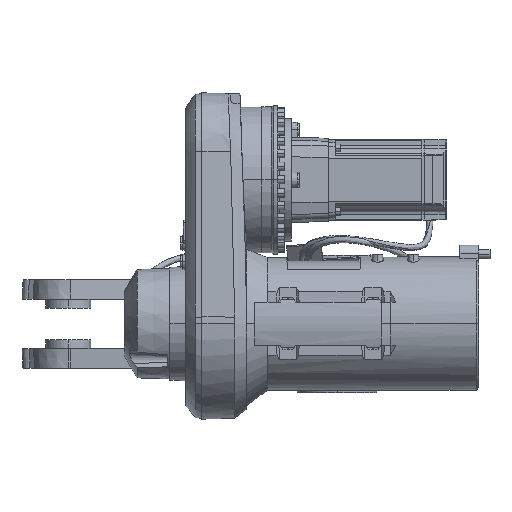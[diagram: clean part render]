
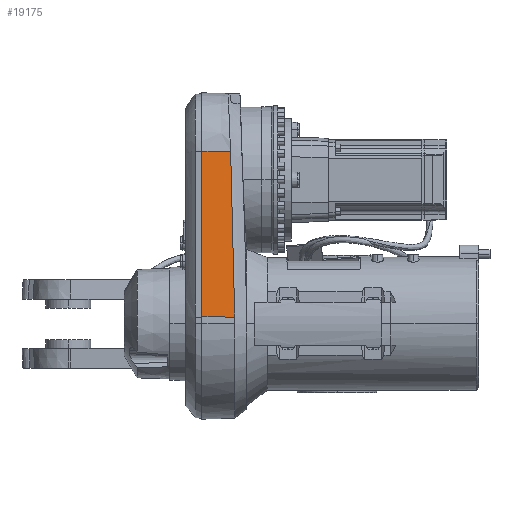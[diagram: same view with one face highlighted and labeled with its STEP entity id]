
A CAD part, top view. The second image highlights one B-rep face of the part: STEP entity #19175.
In plain terms, the highlighted planar face has unit normal (0.026, 0.069, 0.997).
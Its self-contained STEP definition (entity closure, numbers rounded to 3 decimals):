
#37 = CARTESIAN_POINT ( 'NONE',  ( 189.337, 168.722, 3090.001 ) ) ;
#112 = CARTESIAN_POINT ( 'NONE',  ( 183.709, 345.984, 3077.928 ) ) ;
#151 = CARTESIAN_POINT ( 'NONE',  ( 183.284, 357.544, 3077.142 ) ) ;
#215 = CARTESIAN_POINT ( 'NONE',  ( 182.78, 371.029, 3076.225 ) ) ;
#254 = CARTESIAN_POINT ( 'NONE',  ( 182.526, 377.772, 3075.767 ) ) ;
#364 = CARTESIAN_POINT ( 'NONE',  ( 182.417, 380.661, 3075.571 ) ) ;
#681 = CARTESIAN_POINT ( 'NONE',  ( 182.362, 382.106, 3075.473 ) ) ;
#794 = CARTESIAN_POINT ( 'NONE',  ( 182.345, 382.588, 3075.44 ) ) ;
#908 = CARTESIAN_POINT ( 'NONE',  ( 182.252, 384.513, 3075.31 ) ) ;
#1104 = CARTESIAN_POINT ( 'NONE',  ( 182.304, 383.551, 3075.375 ) ) ;
#1171 = EDGE_CURVE ( 'NONE', #20721, #6059, #16609, .T. ) ;
#1359 = EDGE_CURVE ( 'NONE', #6059, #28688, #4648, .T. ) ;
#1421 = CARTESIAN_POINT ( 'NONE',  ( 182.28, 384.032, 3075.342 ) ) ;
#2193 = CARTESIAN_POINT ( 'NONE',  ( 184.548, 322.866, 3079.5 ) ) ;
#3075 = CARTESIAN_POINT ( 'NONE',  ( 186.671, 261.213, 3083.694 ) ) ;
#3698 = EDGE_LOOP ( 'NONE', ( #26585, #23948, #27273, #9707 ) ) ;
#4648 = B_SPLINE_CURVE_WITH_KNOTS ( 'NONE', 3,
 ( #908, #1421, #1104, #794, #681, #364, #254, #215, #151, #112, #2193, #11319, #3075, #22663, #37, #29257, #19500, #27954, #28219, #27495, #23367 ),
 .UNSPECIFIED., .F., .F.,
 ( 4, 2, 2, 1, 1, 1, 2, 2, 2, 2, 2, 4 ),
 ( 0., 0.001, 0.003, 0.006, 0.012, 0.023, 0.046, 0.093, 0.185, 0.278, 0.325, 0.371 ),
 .UNSPECIFIED. ) ;
#4897 = EDGE_CURVE ( 'NONE', #5690, #28688, #18885, .T. ) ;
#5690 = VERTEX_POINT ( 'NONE', #18239 ) ;
#6059 = VERTEX_POINT ( 'NONE', #29388 ) ;
#8010 = CARTESIAN_POINT ( 'NONE',  ( 118., 14.65, 3102.496 ) ) ;
#9566 = VECTOR ( 'NONE', #10494, 1000. ) ;
#9595 = CARTESIAN_POINT ( 'NONE',  ( 118., 35.921, 3101.029 ) ) ;
#9707 = ORIENTED_EDGE ( 'NONE', *, *, #14952, .T. ) ;
#9747 = CARTESIAN_POINT ( 'NONE',  ( 118., 384.629, 3076.988 ) ) ;
#10494 = DIRECTION ( 'NONE',  ( 1., -0.002, -0.026 ) ) ;
#11319 = CARTESIAN_POINT ( 'NONE',  ( 185.093, 307.453, 3080.548 ) ) ;
#14351 = DIRECTION ( 'NONE',  ( 0., -0.998, 0.069 ) ) ;
#14645 = DIRECTION ( 'NONE',  ( 1., -0.002, -0.026 ) ) ;
#14751 = CARTESIAN_POINT ( 'NONE',  ( 191.293, 14.518, 3100.581 ) ) ;
#14952 = EDGE_CURVE ( 'NONE', #20721, #5690, #29053, .T. ) ;
#16609 = LINE ( 'NONE', #9747, #9566 ) ;
#17033 = FACE_OUTER_BOUND ( 'NONE', #3698, .T. ) ;
#17866 = CARTESIAN_POINT ( 'NONE',  ( 118., 35.921, 3101.029 ) ) ;
#18239 = CARTESIAN_POINT ( 'NONE',  ( 118., 14.65, 3102.496 ) ) ;
#18885 = LINE ( 'NONE', #8010, #24936 ) ;
#19175 = ADVANCED_FACE ( 'NONE', ( #17033 ), #25801, .T. ) ;
#19500 = CARTESIAN_POINT ( 'NONE',  ( 190.781, 91.629, 3095.278 ) ) ;
#20172 = DIRECTION ( 'NONE',  ( 0., -0.998, 0.069 ) ) ;
#20434 = AXIS2_PLACEMENT_3D ( 'NONE', #9595, #28178, #14351 ) ;
#20721 = VERTEX_POINT ( 'NONE', #24117 ) ;
#22186 = VECTOR ( 'NONE', #20172, 1000. ) ;
#22663 = CARTESIAN_POINT ( 'NONE',  ( 187.649, 230.385, 3085.794 ) ) ;
#23367 = CARTESIAN_POINT ( 'NONE',  ( 191.293, 14.518, 3100.581 ) ) ;
#23948 = ORIENTED_EDGE ( 'NONE', *, *, #1359, .F. ) ;
#24117 = CARTESIAN_POINT ( 'NONE',  ( 118., 384.629, 3076.988 ) ) ;
#24936 = VECTOR ( 'NONE', #14645, 1000. ) ;
#25801 = PLANE ( 'NONE',  #20434 ) ;
#26585 = ORIENTED_EDGE ( 'NONE', *, *, #4897, .T. ) ;
#27273 = ORIENTED_EDGE ( 'NONE', *, *, #1171, .F. ) ;
#27495 = CARTESIAN_POINT ( 'NONE',  ( 191.293, 29.941, 3099.518 ) ) ;
#27954 = CARTESIAN_POINT ( 'NONE',  ( 190.972, 76.209, 3096.336 ) ) ;
#28178 = DIRECTION ( 'NONE',  ( 0.026, 0.069, 0.997 ) ) ;
#28219 = CARTESIAN_POINT ( 'NONE',  ( 191.228, 45.364, 3098.456 ) ) ;
#28688 = VERTEX_POINT ( 'NONE', #14751 ) ;
#29053 = LINE ( 'NONE', #17866, #22186 ) ;
#29257 = CARTESIAN_POINT ( 'NONE',  ( 190.045, 137.888, 3092.108 ) ) ;
#29388 = CARTESIAN_POINT ( 'NONE',  ( 182.252, 384.513, 3075.31 ) ) ;
